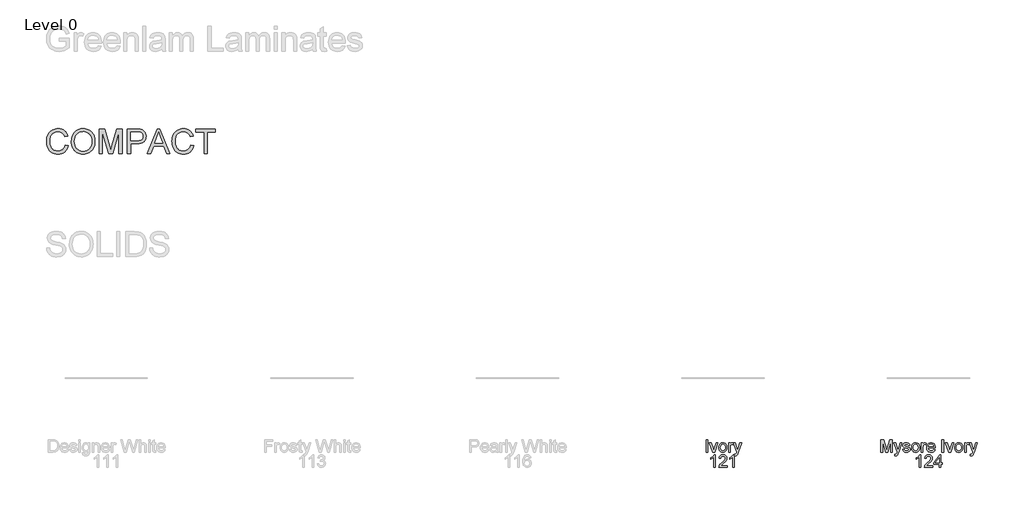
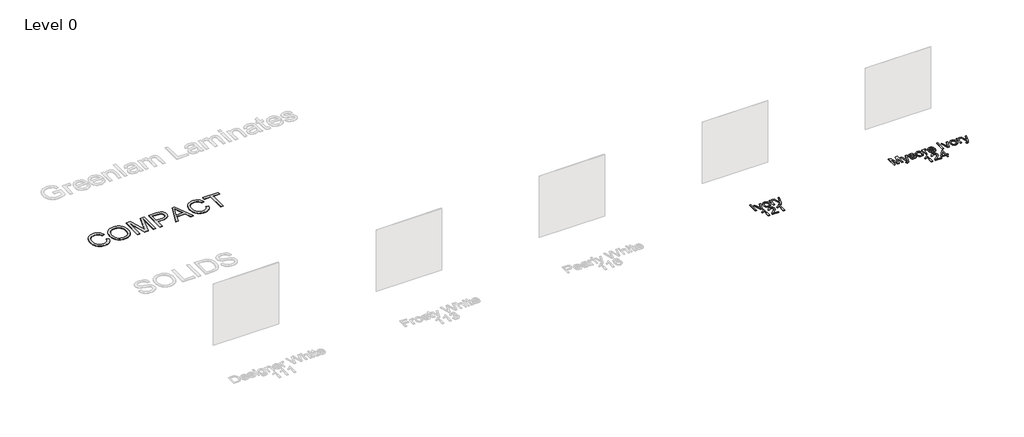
# One storey, part 14 of 15: 3 proxies.
"""IFC4 building model written with IfcOpenShell, lengths in millimetres."""

from ifc_helpers import new_model, si_unit, origin, origin_with_axes, place, context, project, spatial, polyline, outline, extrude, element, save

model = new_model("IFC4")

# Units and contexts
model_context = context("Model", 3, world=origin())
ifc_project = project(units=[si_unit("LENGTHUNIT", "METRE", prefix="MILLI")], contexts=[model_context])

# Site, building, storey
site = spatial("IfcSite", under=ifc_project)
building = spatial("IfcBuilding", under=site)
storey = spatial("IfcBuildingStorey", under=building, Name="Level 0", Elevation=0.0)

# Proxies
placement = place(None, origin())
element("IfcBuildingElementProxy", 1, Name="300mm Arial", ObjectType="300mm Arial", at=placement, inside=storey, context=model_context, shape_type="SweptSolid", body=[
    extrude(outline(polyline([(9390.9551173, -7002.860494), (9390.9551173, -6701.4915635), (9455.7759248, -6701.4915635), (9517.4329472, -6913.9066275), (9529.8673587, -6958.2731962), (9543.3318397, -6910.2278076), (9603.9587925, -6701.4915635), (9668.7796, -6701.4915635), (9668.7796, -7002.860494), (9631.1084837, -7002.860494), (9631.1084837, -6739.1626798), (9555.3983691, -7002.860494), (9504.3363482, -7002.860494), (9428.6262336, -6739.1626798), (9428.6262336, -7002.860494), (9390.9551173, -7002.860494)])), origin_with_axes(), (0.0, 0.0, 1.0), 10.0),
    extrude(outline(polyline([(9729.995164, -7087.6205057), (9725.2862745, -7051.3473409), (9744.4161382, -7054.6582789), (9762.2952032, -7050.5012124), (9773.2580867, -7038.9129295), (9783.5587825, -7011.1746271), (9786.5018385, -7002.0511536), (9706.4507163, -6781.5426857), (9746.1819718, -6781.5426857), (9788.6355541, -6904.4152721), (9803.4244103, -6953.5643066), (9818.2132665, -6910.1542312), (9861.8440711, -6781.5426857), (9901.281021, -6781.5426857), (9824.2465312, -7008.1579947), (9804.2337507, -7057.3070293), (9793.9882371, -7072.9971964), (9782.3815601, -7083.8681093), (9768.898685, -7090.2140737), (9753.0245769, -7092.3293952), (9729.995164, -7087.6205057)])), origin_with_axes(), (0.0, 0.0, 1.0), 10.0),
    extrude(outline(polyline([(9918.3507456, -6936.9360404), (9956.0218619, -6932.2271509), (9961.9631561, -6948.3403823), (9973.4594684, -6960.1861825), (9990.5843753, -6967.470246), (10013.4114531, -6969.8982672), (10035.9626194, -6967.6725811), (10051.8183334, -6960.9955229), (10061.1993243, -6951.3202265), (10064.3263213, -6940.0998256), (10061.1809302, -6930.4981055), (10051.744757, -6923.1772538), (10012.9699947, -6912.4350996), (9956.2425911, -6894.0042116), (9941.8859962, -6884.7427824), (9931.4841328, -6872.4831149), (9925.1657595, -6858.0069584), (9923.0596351, -6842.0960621), (9924.7518923, -6827.5003439), (9929.8286638, -6814.0266659), (9937.8300972, -6802.2084568), (9948.29634, -6792.5791455), (9972.2454579, -6781.4323211), (10004.6558616, -6776.8337961), (10029.1751966, -6778.6824032), (10050.4939582, -6784.2282242), (10067.6372592, -6792.9286334), (10079.6302123, -6804.2410048), (10087.5764633, -6819.0022698), (10092.5796585, -6838.0493601), (10054.9085422, -6842.7582497), (10050.1536674, -6830.9032524), (10040.7450854, -6821.972917), (10026.5908256, -6816.3719136), (10007.5989176, -6814.5049125), (9985.9674563, -6816.2891401), (9971.5464821, -6821.6418232), (9963.4346841, -6829.3673451), (9960.7307514, -6838.2700893), (9965.2189118, -6849.2329728), (9979.272004, -6857.5471059), (10011.7191959, -6865.5669334), (10067.0118598, -6883.2988455), (10081.616775, -6891.7785255), (10092.6900231, -6903.3852025), (10099.6705839, -6918.1556646), (10101.9974376, -6936.1267001), (10099.2659137, -6954.7047408), (10091.0713423, -6972.1791356), (10077.7264229, -6987.1795239), (10059.5438553, -6998.3355454), (10037.5813002, -7005.260924), (10012.8964183, -7007.5693835), (9974.9126023, -7003.1180114), (9947.192694, -6989.763895), (9928.6882296, -6967.654187), (9918.3507456, -6936.9360404)])), origin_with_axes(), (0.0, 0.0, 1.0), 10.0),
    extrude(outline(polyline([(10134.9596643, -6892.2015898), (10136.9968109, -6863.5389839), (10143.1082505, -6838.8403064), (10153.2939833, -6818.1055575), (10167.5540091, -6801.334737), (10181.910604, -6790.6155754), (10197.7571209, -6782.9590314), (10215.0935599, -6778.3651049), (10233.919921, -6776.8337961), (10254.7029545, -6778.698498), (10273.4948267, -6784.2926036), (10290.2955375, -6793.6161129), (10305.1050871, -6806.669026), (10317.1923099, -6823.0098843), (10325.8260405, -6842.1972296), (10331.0062788, -6864.2310619), (10332.7330249, -6889.1113811), (10329.6796044, -6927.1687735), (10320.5193427, -6956.1394806), (10305.5189543, -6977.8353213), (10284.9451538, -6994.0681143), (10260.5085922, -7004.1940662), (10233.919921, -7007.5693835), (10212.8333849, -7005.7115794), (10193.8667688, -7000.1381672), (10177.0200727, -6990.8491468), (10162.2932966, -6977.8445183), (10150.3348325, -6961.3450108), (10141.7930724, -6941.5713536), (10136.6680163, -6918.5235466), (10134.9596643, -6892.2015898)]), holes=[polyline([(10172.6307806, -6892.1280134), (10176.9901823, -6926.2214773), (10190.0683872, -6950.5108861), (10209.7500739, -6965.0514219), (10233.919921, -6969.8982672), (10257.9794035, -6965.0238308), (10277.6243021, -6950.4005215), (10290.702507, -6925.789216), (10295.0619086, -6890.950791), (10290.6749158, -6857.8506085), (10277.5139375, -6833.8922936), (10257.8414478, -6819.3517577), (10233.919921, -6814.5049125), (10209.7500739, -6819.3333636), (10190.0683872, -6833.8187172), (10176.9901823, -6858.0529436), (10172.6307806, -6892.1280134)])]), origin_with_axes(), (0.0, 0.0, 1.0), 10.0),
    extrude(outline(polyline([(10375.1130308, -7002.860494), (10375.1130308, -6781.5426857), (10408.0752575, -6781.5426857), (10408.0752575, -6814.2841833), (10420.2521516, -6795.3014723), (10431.4725524, -6784.1178596), (10442.7297415, -6778.654812), (10455.0170001, -6776.8337961), (10473.7789819, -6779.7400639), (10492.8352692, -6788.4588672), (10480.253705, -6822.2304343), (10467.0099532, -6816.4362929), (10453.7662013, -6814.5049125), (10442.5182093, -6816.3627165), (10432.4658338, -6821.9361288), (10424.3448388, -6830.8020848), (10418.8909882, -6842.5375205), (10414.3108574, -6863.5803706), (10412.7841471, -6886.5362071), (10412.7841471, -7002.860494), (10375.1130308, -7002.860494)])), origin_with_axes(), (0.0, 0.0, 1.0), 10.0),
    extrude(outline(polyline([(10671.3316133, -6936.9360404), (10708.2669656, -6941.64493), (10694.9588344, -6969.4752029), (10673.7228463, -6990.2789297), (10645.0372477, -7003.2467701), (10609.3802853, -7007.5693835), (10586.005983, -7005.7046817), (10565.1792636, -7000.1105761), (10546.9001269, -6990.7870668), (10531.1685731, -6977.7341537), (10518.518031, -6961.3151204), (10509.4819295, -6941.8932503), (10504.0602686, -6919.4685435), (10502.2530483, -6894.0409998), (10504.0786627, -6867.7512327), (10509.5555059, -6844.5792656), (10518.6835779, -6824.5250983), (10531.4628787, -6807.5887309), (10547.1530458, -6794.133447), (10565.0137167, -6784.5225298), (10585.0448913, -6778.7559796), (10607.2465697, -6776.8337961), (10628.7331775, -6778.751381), (10648.1642446, -6784.5041357), (10665.5397711, -6794.0920602), (10680.859757, -6807.5151545), (10693.3654455, -6824.4147337), (10702.2980802, -6844.4321128), (10707.6576611, -6867.5672917), (10709.444188, -6893.8202706), (10709.2234588, -6903.9738137), (10539.9241646, -6903.9738137), (10546.444873, -6932.1719686), (10561.5924141, -6952.902119), (10583.4538017, -6965.6492302), (10610.1160493, -6969.8982672), (10630.165618, -6967.9300985), (10647.0514016, -6962.0255925), (10660.7734, -6951.8168672), (10671.3316133, -6936.9360404)]), holes=[polyline([(10539.9241646, -6866.3026974), (10671.7730717, -6866.3026974), (10666.6779061, -6846.4002814), (10656.6899099, -6832.1632482), (10634.7273548, -6818.9194964), (10607.0994169, -6814.5049125), (10581.7063622, -6818.0273826), (10560.7094973, -6828.5947929), (10546.1137792, -6845.0667092), (10539.9241646, -6866.3026974)])]), origin_with_axes(), (0.0, 0.0, 1.0), 10.0),
    extrude(outline(polyline([(10874.2553218, -7002.860494), (10874.2553218, -6701.4915635), (10911.9264381, -6701.4915635), (10911.9264381, -7002.860494), (10874.2553218, -7002.860494)])), origin_with_axes(), (0.0, 0.0, 1.0), 10.0),
    extrude(outline(polyline([(11036.8591637, -7002.860494), (10959.0153335, -6781.5426857), (10998.8937418, -6781.5426857), (11046.0562136, -6914.1273567), (11060.2564586, -6958.7146546), (11074.162398, -6916.6289543), (11121.6191754, -6781.5426857), (11161.4975837, -6781.5426857), (11084.6102467, -7002.860494), (11036.8591637, -7002.860494)])), origin_with_axes(), (0.0, 0.0, 1.0), 10.0),
    extrude(outline(polyline([(11185.0420314, -6892.2015898), (11187.0791779, -6863.5389839), (11193.1906176, -6838.8403064), (11203.3763503, -6818.1055575), (11217.6363761, -6801.334737), (11231.992971, -6790.6155754), (11247.8394879, -6782.9590314), (11265.175927, -6778.3651049), (11284.0022881, -6776.8337961), (11304.7853215, -6778.698498), (11323.5771937, -6784.2926036), (11340.3779046, -6793.6161129), (11355.1874541, -6806.669026), (11367.2746769, -6823.0098843), (11375.9084075, -6842.1972296), (11381.0886459, -6864.2310619), (11382.815392, -6889.1113811), (11379.7619714, -6927.1687735), (11370.6017097, -6956.1394806), (11355.6013214, -6977.8353213), (11335.0275208, -6994.0681143), (11310.5909593, -7004.1940662), (11284.0022881, -7007.5693835), (11262.9157519, -7005.7115794), (11243.9491358, -7000.1381672), (11227.1024397, -6990.8491468), (11212.3756636, -6977.8445183), (11200.4171995, -6961.3450108), (11191.8754394, -6941.5713536), (11186.7503834, -6918.5235466), (11185.0420314, -6892.2015898)]), holes=[polyline([(11222.7131477, -6892.1280134), (11227.0725493, -6926.2214773), (11240.1507542, -6950.5108861), (11259.832441, -6965.0514219), (11284.0022881, -6969.8982672), (11308.0617705, -6965.0238308), (11327.7066691, -6950.4005215), (11340.784874, -6925.789216), (11345.1442757, -6890.950791), (11340.7572829, -6857.8506085), (11327.5963045, -6833.8922936), (11307.9238148, -6819.3517577), (11284.0022881, -6814.5049125), (11259.832441, -6819.3333636), (11240.1507542, -6833.8187172), (11227.0725493, -6858.0529436), (11222.7131477, -6892.1280134)])]), origin_with_axes(), (0.0, 0.0, 1.0), 10.0),
    extrude(outline(polyline([(11425.1953978, -7002.860494), (11425.1953978, -6781.5426857), (11458.1576246, -6781.5426857), (11458.1576246, -6814.2841833), (11470.3345186, -6795.3014723), (11481.5549195, -6784.1178596), (11492.8121085, -6778.654812), (11505.0993672, -6776.8337961), (11523.8613489, -6779.7400639), (11542.9176363, -6788.4588672), (11530.336072, -6822.2304343), (11517.0923202, -6816.4362929), (11503.8485684, -6814.5049125), (11492.6005764, -6816.3627165), (11482.5482009, -6821.9361288), (11474.4272058, -6830.8020848), (11468.9733552, -6842.5375205), (11464.3932244, -6863.5803706), (11462.8665141, -6886.5362071), (11462.8665141, -7002.860494), (11425.1953978, -7002.860494)])), origin_with_axes(), (0.0, 0.0, 1.0), 10.0),
    extrude(outline(polyline([(11566.462084, -7087.6205057), (11561.7531944, -7051.3473409), (11580.8830582, -7054.6582789), (11598.7621231, -7050.5012124), (11609.7250066, -7038.9129295), (11620.0257025, -7011.1746271), (11622.9687584, -7002.0511536), (11542.9176363, -6781.5426857), (11582.6488917, -6781.5426857), (11625.102474, -6904.4152721), (11639.8913302, -6953.5643066), (11654.6801864, -6910.1542312), (11698.310991, -6781.5426857), (11737.7479409, -6781.5426857), (11660.7134511, -7008.1579947), (11640.7006706, -7057.3070293), (11630.455157, -7072.9971964), (11618.8484801, -7083.8681093), (11605.3656049, -7090.2140737), (11589.4914969, -7092.3293952), (11566.462084, -7087.6205057)])), origin_with_axes(), (0.0, 0.0, 1.0), 10.0),
    extrude(outline(polyline([(10363.3408069, -7368.7849475), (10325.6696906, -7368.7849475), (10325.6696906, -7133.9290818), (10289.9851371, -7159.3497277), (10250.327458, -7178.3692268), (10250.327458, -7142.7582497), (10279.9143675, -7126.6634124), (10305.5465455, -7107.5151545), (10325.7524641, -7087.1528861), (10339.0605952, -7067.4160171), (10363.3408069, -7067.4160171), (10363.3408069, -7368.7849475)])), origin_with_axes(), (0.0, 0.0, 1.0), 10.0),
    extrude(outline(polyline([(10645.8741792, -7331.1138312), (10645.8741792, -7368.7849475), (10448.1008186, -7368.7849475), (10452.1475206, -7342.8124787), (10461.4365409, -7322.5145896), (10475.0297807, -7302.8237058), (10494.6930733, -7282.213117), (10522.1922524, -7259.156113), (10562.8432129, -7223.0484951), (10587.2337892, -7196.3954446), (10599.4290773, -7174.7639833), (10603.4941734, -7153.7211331), (10599.6590036, -7134.8579838), (10588.1534942, -7119.1770138), (10570.4675673, -7108.6096035), (10548.0911449, -7105.0871334), (10524.5926825, -7108.52683), (10506.3365385, -7118.84592), (10494.5551176, -7135.2350629), (10490.4808245, -7156.8849183), (10452.8097082, -7152.1760288), (10461.9423787, -7115.7373171), (10470.4887373, -7101.2013798), (10481.6884448, -7089.1210548), (10495.2839838, -7079.6251008), (10511.0178368, -7072.8422765), (10548.9004853, -7067.4160171), (10569.090309, -7068.9243332), (10587.0590452, -7073.4492818), (10602.8066939, -7080.9908627), (10616.333255, -7091.549076), (10627.1972702, -7104.3421723), (10634.957281, -7118.5884026), (10639.6132875, -7134.2877667), (10641.1652897, -7151.4402648), (10639.4914266, -7169.4572855), (10634.4698374, -7187.1616065), (10625.557896, -7205.1694302), (10612.2129767, -7224.0969588), (10590.9402003, -7246.6941104), (10558.244688, -7275.7108027), (10514.9081889, -7311.9471793), (10497.9120408, -7331.1138312), (10645.8741792, -7331.1138312)])), origin_with_axes(), (0.0, 0.0, 1.0), 10.0),
    extrude(outline(polyline([(10805.9764235, -7368.7849475), (10805.9764235, -7298.1516044), (10669.4186269, -7298.1516044), (10669.4186269, -7260.4804881), (10815.3942026, -7072.1249066), (10843.6475398, -7072.1249066), (10843.6475398, -7260.4804881), (10881.3186561, -7260.4804881), (10881.3186561, -7298.1516044), (10843.6475398, -7298.1516044), (10843.6475398, -7368.7849475), (10805.9764235, -7368.7849475)]), holes=[polyline([(10805.9764235, -7260.4804881), (10805.9764235, -7144.0826249), (10715.7717583, -7260.4804881), (10805.9764235, -7260.4804881)])]), origin_with_axes(), (0.0, 0.0, 1.0), 10.0),
])
element("IfcBuildingElementProxy", 2, Name="300mm Arial", ObjectType="300mm Arial", at=placement, inside=storey, context=model_context, shape_type="SweptSolid", body=[
    extrude(outline(polyline([(5134.9596643, -7002.860494), (5134.9596643, -6701.4915635), (5172.6307806, -6701.4915635), (5172.6307806, -7002.860494), (5134.9596643, -7002.860494)])), origin_with_axes(), (0.0, 0.0, 1.0), 10.0),
    extrude(outline(polyline([(5297.5635062, -7002.860494), (5219.719676, -6781.5426857), (5259.5980843, -6781.5426857), (5306.7605561, -6914.1273567), (5320.9608011, -6958.7146546), (5334.8667405, -6916.6289543), (5382.3235179, -6781.5426857), (5422.2019262, -6781.5426857), (5345.3145892, -7002.860494), (5297.5635062, -7002.860494)])), origin_with_axes(), (0.0, 0.0, 1.0), 10.0),
    extrude(outline(polyline([(5445.7463739, -6892.2015898), (5447.7835204, -6863.5389839), (5453.89496, -6838.8403064), (5464.0806928, -6818.1055575), (5478.3407186, -6801.334737), (5492.6973135, -6790.6155754), (5508.5438304, -6782.9590314), (5525.8802695, -6778.3651049), (5544.7066306, -6776.8337961), (5565.489664, -6778.698498), (5584.2815362, -6784.2926036), (5601.0822471, -6793.6161129), (5615.8917966, -6806.669026), (5627.9790194, -6823.0098843), (5636.61275, -6842.1972296), (5641.7929883, -6864.2310619), (5643.5197345, -6889.1113811), (5640.4663139, -6927.1687735), (5631.3060522, -6956.1394806), (5616.3056639, -6977.8353213), (5595.7318633, -6994.0681143), (5571.2953018, -7004.1940662), (5544.7066306, -7007.5693835), (5523.6200944, -7005.7115794), (5504.6534783, -7000.1381672), (5487.8067822, -6990.8491468), (5473.0800061, -6977.8445183), (5461.121542, -6961.3450108), (5452.5797819, -6941.5713536), (5447.4547259, -6918.5235466), (5445.7463739, -6892.2015898)]), holes=[polyline([(5483.4174902, -6892.1280134), (5487.7768918, -6926.2214773), (5500.8550967, -6950.5108861), (5520.5367835, -6965.0514219), (5544.7066306, -6969.8982672), (5568.766113, -6965.0238308), (5588.4110116, -6950.4005215), (5601.4892165, -6925.789216), (5605.8486182, -6890.950791), (5601.4616254, -6857.8506085), (5588.300647, -6833.8922936), (5568.6281573, -6819.3517577), (5544.7066306, -6814.5049125), (5520.5367835, -6819.3333636), (5500.8550967, -6833.8187172), (5487.7768918, -6858.0529436), (5483.4174902, -6892.1280134)])]), origin_with_axes(), (0.0, 0.0, 1.0), 10.0),
    extrude(outline(polyline([(5685.8997403, -7002.860494), (5685.8997403, -6781.5426857), (5718.8619671, -6781.5426857), (5718.8619671, -6814.2841833), (5731.0388611, -6795.3014723), (5742.259262, -6784.1178596), (5753.516451, -6778.654812), (5765.8037097, -6776.8337961), (5784.5656914, -6779.7400639), (5803.6219788, -6788.4588672), (5791.0404145, -6822.2304343), (5777.7966627, -6816.4362929), (5764.5529109, -6814.5049125), (5753.3049189, -6816.3627165), (5743.2525434, -6821.9361288), (5735.1315483, -6830.8020848), (5729.6776977, -6842.5375205), (5725.0975669, -6863.5803706), (5723.5708566, -6886.5362071), (5723.5708566, -7002.860494), (5685.8997403, -7002.860494)])), origin_with_axes(), (0.0, 0.0, 1.0), 10.0),
    extrude(outline(polyline([(5827.1664265, -7087.6205057), (5822.4575369, -7051.3473409), (5841.5874007, -7054.6582789), (5859.4664656, -7050.5012124), (5870.4293491, -7038.9129295), (5880.7300449, -7011.1746271), (5883.6731009, -7002.0511536), (5803.6219788, -6781.5426857), (5843.3532342, -6781.5426857), (5885.8068165, -6904.4152721), (5900.5956727, -6953.5643066), (5915.3845289, -6910.1542312), (5959.0153335, -6781.5426857), (5998.4522834, -6781.5426857), (5921.4177936, -7008.1579947), (5901.4050131, -7057.3070293), (5891.1594995, -7072.9971964), (5879.5528226, -7083.8681093), (5866.0699474, -7090.2140737), (5850.1958393, -7092.3293952), (5827.1664265, -7087.6205057)])), origin_with_axes(), (0.0, 0.0, 1.0), 10.0),
    extrude(outline(polyline([(5363.3408069, -7368.7849475), (5325.6696906, -7368.7849475), (5325.6696906, -7133.9290818), (5289.9851371, -7159.3497277), (5250.327458, -7178.3692268), (5250.327458, -7142.7582497), (5279.9143675, -7126.6634124), (5305.5465455, -7107.5151545), (5325.7524641, -7087.1528861), (5339.0605952, -7067.4160171), (5363.3408069, -7067.4160171), (5363.3408069, -7368.7849475)])), origin_with_axes(), (0.0, 0.0, 1.0), 10.0),
    extrude(outline(polyline([(5645.8741792, -7331.1138312), (5645.8741792, -7368.7849475), (5448.1008186, -7368.7849475), (5452.1475206, -7342.8124787), (5461.4365409, -7322.5145896), (5475.0297807, -7302.8237058), (5494.6930733, -7282.213117), (5522.1922524, -7259.156113), (5562.8432129, -7223.0484951), (5587.2337892, -7196.3954446), (5599.4290773, -7174.7639833), (5603.4941734, -7153.7211331), (5599.6590036, -7134.8579838), (5588.1534942, -7119.1770138), (5570.4675673, -7108.6096035), (5548.0911449, -7105.0871334), (5524.5926825, -7108.52683), (5506.3365385, -7118.84592), (5494.5551176, -7135.2350629), (5490.4808245, -7156.8849183), (5452.8097082, -7152.1760288), (5461.9423787, -7115.7373171), (5470.4887373, -7101.2013798), (5481.6884448, -7089.1210548), (5495.2839838, -7079.6251008), (5511.0178368, -7072.8422765), (5548.9004853, -7067.4160171), (5569.090309, -7068.9243332), (5587.0590452, -7073.4492818), (5602.8066939, -7080.9908627), (5616.333255, -7091.549076), (5627.1972702, -7104.3421723), (5634.957281, -7118.5884026), (5639.6132875, -7134.2877667), (5641.1652897, -7151.4402648), (5639.4914266, -7169.4572855), (5634.4698374, -7187.1616065), (5625.557896, -7205.1694302), (5612.2129767, -7224.0969588), (5590.9402003, -7246.6941104), (5558.244688, -7275.7108027), (5514.9081889, -7311.9471793), (5497.9120408, -7331.1138312), (5645.8741792, -7331.1138312)])), origin_with_axes(), (0.0, 0.0, 1.0), 10.0),
    extrude(outline(polyline([(5824.8119817, -7368.7849475), (5787.1408654, -7368.7849475), (5787.1408654, -7133.9290818), (5751.4563118, -7159.3497277), (5711.7986328, -7178.3692268), (5711.7986328, -7142.7582497), (5741.3855422, -7126.6634124), (5767.0177202, -7107.5151545), (5787.2236388, -7087.1528861), (5800.53177, -7067.4160171), (5824.8119817, -7067.4160171), (5824.8119817, -7368.7849475)])), origin_with_axes(), (0.0, 0.0, 1.0), 10.0),
])
element("IfcBuildingElementProxy", 3, Name="600mm Arial", ObjectType="600mm Arial", at=placement, inside=storey, context=model_context, shape_type="SweptSolid", body=[
    extrude(outline(polyline([(-10453.6631268, 474.3824267), (-10378.3208942, 454.9582573), (-10393.229312, 408.1038867), (-10413.0857427, 367.1632192), (-10437.8901863, 332.1362547), (-10467.6426426, 303.0229933), (-10501.6717272, 280.1361347), (-10539.3060553, 263.7883785), (-10580.5456269, 253.9797248), (-10625.3904421, 250.7101736), (-10671.3343048, 253.18418), (-10712.7808101, 260.6061993), (-10749.729958, 272.9762314), (-10782.1817485, 290.2942763), (-10810.5822385, 312.3028166), (-10835.377485, 338.744335), (-10856.5674879, 369.6188315), (-10874.1522473, 404.926306), (-10887.9616177, 443.1400482), (-10897.8254537, 482.733348), (-10903.7437553, 523.7062052), (-10905.7165225, 566.0586199), (-10903.4862379, 611.5012433), (-10896.7953841, 653.9456285), (-10885.6439611, 693.3917754), (-10870.0319689, 729.8396841), (-10850.3088955, 762.6869478), (-10826.8242286, 791.3311596), (-10799.5779683, 815.7723197), (-10768.5701147, 836.0104279), (-10734.8537298, 851.8799375), (-10699.481876, 863.2153015), (-10662.4545532, 870.0165199), (-10623.7717614, 872.2835926), (-10580.6789842, 869.3497337), (-10541.1638594, 860.548157), (-10505.2263869, 845.8788624), (-10472.8665669, 825.3418501), (-10444.6178282, 799.4797458), (-10421.0135997, 768.8351756), (-10402.0538814, 733.4081395), (-10387.7386733, 693.1986374), (-10463.0809059, 675.245996), (-10474.9451002, 704.8742922), (-10489.2005275, 730.189172), (-10505.8471878, 751.1906354), (-10524.8850811, 767.8786824), (-10546.4245719, 780.5936039), (-10570.5760249, 789.6756906), (-10597.33944, 795.1249427), (-10626.7148173, 796.94136), (-10660.5139756, 794.9272061), (-10691.4252603, 788.8847443), (-10719.4486713, 778.8139747), (-10744.5842086, 764.7148973), (-10766.514574, 747.2221084), (-10784.9224694, 726.9702046), (-10799.8078946, 703.9591858), (-10811.1708497, 678.189052), (-10825.5734298, 623.0435409), (-10830.3742899, 566.2057727), (-10824.690513, 496.6024992), (-10817.585792, 465.3325296), (-10807.6391826, 436.4170048), (-10794.6897363, 410.4307403), (-10778.5765049, 387.9485519), (-10759.2994884, 368.9704395), (-10736.8586867, 353.496403), (-10712.3439502, 341.4896544), (-10686.8451294, 332.9134054), (-10660.3622243, 327.767656), (-10632.8952348, 326.0524062), (-10600.1399417, 328.3884569), (-10570.0058078, 335.3966089), (-10542.4928331, 347.0768622), (-10517.6010176, 363.4292169), (-10495.9189725, 384.3800965), (-10478.035309, 409.8559247), (-10463.9500271, 439.8567014), (-10453.6631268, 474.3824267)])), origin_with_axes(), (0.0, 0.0, 1.0), 10.0),
    extrude(outline(polyline([(-10302.9786616, 553.550632), (-10297.9570723, 624.2483544), (-10282.8923046, 686.8342789), (-10257.7843585, 741.3084053), (-10241.4641935, 765.5035443), (-10222.6332338, 787.6707338), (-10179.5450551, 824.6888595), (-10130.6259468, 851.1303779), (-10075.8759089, 866.995289), (-10015.2949413, 872.2835926), (-9974.7451484, 869.8003892), (-9936.2371006, 862.3507788), (-9899.7707978, 849.9347614), (-9865.3462401, 832.5523372), (-9833.9291177, 810.7277378), (-9806.4851209, 784.9851952), (-9783.0142496, 755.3247093), (-9763.5165038, 721.7462802), (-9748.1942187, 685.013263), (-9737.2497294, 645.8890128), (-9730.6830358, 604.3735297), (-9728.4941379, 560.4668135), (-9730.7979989, 515.9806833), (-9737.7095819, 473.9041801), (-9749.2288869, 434.2373039), (-9765.3559138, 396.9800549), (-9785.7089852, 363.1165172), (-9809.9064234, 333.6307753), (-9837.9482285, 308.5228291), (-9869.8344005, 287.7926787), (-9904.3095419, 271.5690827), (-9940.1182556, 259.9807999), (-9977.2605416, 253.0278302), (-10015.7363997, 250.7101736), (-10056.9943655, 253.271552), (-10096.0082511, 260.9556872), (-10132.7780565, 273.7625791), (-10167.3037818, 291.6922279), (-10198.6841159, 314.0502561), (-10226.0177482, 340.1422866), (-10249.3046785, 369.9683194), (-10268.5449068, 403.5283544), (-10283.6096745, 439.4750238), (-10294.3702229, 476.4609599), (-10300.8265519, 514.4861627), (-10302.9786616, 553.550632)]), holes=[polyline([(-10227.636429, 552.814868), (-10223.870237, 502.8656901), (-10212.5716613, 458.5267127), (-10193.7407016, 419.7979356), (-10167.3773582, 386.679359), (-10135.3302378, 360.1550672), (-10099.4479477, 341.2091444), (-10059.7304878, 329.8415908), (-10016.1778581, 326.0524062), (-9971.8802674, 329.878379), (-9931.6937579, 341.3562972), (-9895.6183298, 360.486161), (-9863.6539829, 387.2679702), (-9837.4837775, 421.0855226), (-9818.7907736, 461.3226158), (-9807.5749713, 507.9792499), (-9803.8363705, 561.0554247), (-9805.4366572, 595.5351647), (-9810.2375172, 627.7524305), (-9818.2389506, 657.7072219), (-9829.4409574, 685.3995391), (-9843.7193773, 710.4660985), (-9860.9500503, 732.5436168), (-9881.1329762, 751.6320938), (-9904.2681552, 767.7315296), (-9929.6382173, 780.5108304), (-9956.5257926, 789.6389024), (-9984.9308812, 795.1157456), (-10014.853483, 796.94136), (-10056.8931979, 793.4234885), (-10095.8978865, 782.8698737), (-10131.8675486, 765.2805158), (-10164.8021842, 740.6554148), (-10192.2921663, 707.8081511), (-10211.9278678, 665.5523055), (-10223.7092887, 613.8878778), (-10227.636429, 552.814868)])]), origin_with_axes(), (0.0, 0.0, 1.0), 10.0),
    extrude(outline(polyline([(-9624.8985681, 260.1279527), (-9624.8985681, 862.8658136), (-9495.256953, 862.8658136), (-9371.9429082, 438.0356855), (-9347.0740853, 349.3025483), (-9320.1451233, 445.3933254), (-9198.8912176, 862.8658136), (-9069.2496025, 862.8658136), (-9069.2496025, 260.1279527), (-9144.5918352, 260.1279527), (-9144.5918352, 787.523581), (-9296.0120644, 260.1279527), (-9398.1361062, 260.1279527), (-9549.5563355, 787.523581), (-9549.5563355, 260.1279527), (-9624.8985681, 260.1279527)])), origin_with_axes(), (0.0, 0.0, 1.0), 10.0),
    extrude(outline(polyline([(-8937.4006955, 260.1279527), (-8937.4006955, 862.8658136), (-8714.022748, 862.8658136), (-8662.0042339, 861.4310738), (-8623.9652356, 857.1268544), (-8583.8109158, 846.4030943), (-8550.7567185, 828.9470936), (-8524.1404562, 803.9679061), (-8503.2999412, 770.6745856), (-8489.8354601, 731.4031826), (-8485.3472998, 688.4897479), (-8488.3777277, 651.4900162), (-8497.4690115, 617.4517346), (-8512.6211512, 586.374903), (-8533.8341468, 558.2595216), (-8562.9566052, 534.9541972), (-8601.8371336, 518.3075369), (-8650.4757319, 508.3195407), (-8708.8724001, 504.9902087), (-8862.0584629, 504.9902087), (-8862.0584629, 260.1279527), (-8937.4006955, 260.1279527)]), holes=[polyline([(-8862.0584629, 580.3324413), (-8704.4578161, 580.3324413), (-8668.2214396, 582.0614867), (-8637.6504458, 587.2486228), (-8612.7448347, 595.8938497), (-8593.5046064, 607.9971673), (-8579.1480115, 623.236679), (-8568.8933009, 641.2904879), (-8562.7404745, 662.1585941), (-8560.6895324, 685.8409975), (-8565.5271807, 719.686141), (-8580.0401254, 748.2337839), (-8602.4257448, 769.7180924), (-8630.8814171, 782.373233), (-8659.9440947, 786.235994), (-8706.2236497, 787.523581), (-8862.0584629, 787.523581), (-8862.0584629, 580.3324413)])]), origin_with_axes(), (0.0, 0.0, 1.0), 10.0),
    extrude(outline(polyline([(-8451.9436146, 260.1279527), (-8211.3487898, 862.8658136), (-8147.1901698, 862.8658136), (-7906.595345, 260.1279527), (-7986.2050087, 260.1279527), (-8055.219671, 448.4835342), (-8303.4664414, 448.4835342), (-8372.3339509, 260.1279527), (-8451.9436146, 260.1279527)]), holes=[polyline([(-8275.8017154, 523.8257668), (-8082.7372443, 523.8257668), (-8137.0366268, 672.0086345), (-8179.2694798, 787.523581), (-8216.7934433, 684.9580807), (-8275.8017154, 523.8257668)])]), origin_with_axes(), (0.0, 0.0, 1.0), 10.0),
    extrude(outline(polyline([(-7402.302706, 474.3824267), (-7326.9604734, 454.9582573), (-7341.8688912, 408.1038867), (-7361.7253219, 367.1632192), (-7386.5297655, 332.1362547), (-7416.2822218, 303.0229933), (-7450.3113064, 280.1361347), (-7487.9456345, 263.7883785), (-7529.1852061, 253.9797248), (-7574.0300214, 250.7101736), (-7619.973884, 253.18418), (-7661.4203893, 260.6061993), (-7698.3695372, 272.9762314), (-7730.8213277, 290.2942763), (-7759.2218177, 312.3028166), (-7784.0170642, 338.744335), (-7805.2070671, 369.6188315), (-7822.7918265, 404.926306), (-7836.6011969, 443.1400482), (-7846.4650329, 482.733348), (-7852.3833345, 523.7062052), (-7854.3561017, 566.0586199), (-7852.1258171, 611.5012433), (-7845.4349633, 653.9456285), (-7834.2835403, 693.3917754), (-7818.6715481, 729.8396841), (-7798.9484747, 762.6869478), (-7775.4638078, 791.3311596), (-7748.2175475, 815.7723197), (-7717.2096939, 836.0104279), (-7683.493309, 851.8799375), (-7648.1214552, 863.2153015), (-7611.0941324, 870.0165199), (-7572.4113406, 872.2835926), (-7529.3185634, 869.3497337), (-7489.8034386, 860.548157), (-7453.8659662, 845.8788624), (-7421.5061462, 825.3418501), (-7393.2574074, 799.4797458), (-7369.6531789, 768.8351756), (-7350.6934606, 733.4081395), (-7336.3782525, 693.1986374), (-7411.7204851, 675.245996), (-7423.5846794, 704.8742922), (-7437.8401067, 730.189172), (-7454.486767, 751.1906354), (-7473.5246603, 767.8786824), (-7495.0641511, 780.5936039), (-7519.2156041, 789.6756906), (-7545.9790192, 795.1249427), (-7575.3543965, 796.94136), (-7609.1535548, 794.9272061), (-7640.0648395, 788.8847443), (-7668.0882505, 778.8139747), (-7693.2237878, 764.7148973), (-7715.1541532, 747.2221084), (-7733.5620486, 726.9702046), (-7748.4474738, 703.9591858), (-7759.8104289, 678.189052), (-7774.213009, 623.0435409), (-7779.0138691, 566.2057727), (-7773.3300922, 496.6024992), (-7766.2253712, 465.3325296), (-7756.2787618, 436.4170048), (-7743.3293155, 410.4307403), (-7727.2160841, 387.9485519), (-7707.9390676, 368.9704395), (-7685.4982659, 353.496403), (-7660.9835294, 341.4896544), (-7635.4847086, 332.9134054), (-7609.0018035, 327.767656), (-7581.5348141, 326.0524062), (-7548.7795209, 328.3884569), (-7518.645387, 335.3966089), (-7491.1324123, 347.0768622), (-7466.2405968, 363.4292169), (-7444.5585517, 384.3800965), (-7426.6748882, 409.8559247), (-7412.5896063, 439.8567014), (-7402.302706, 474.3824267)])), origin_with_axes(), (0.0, 0.0, 1.0), 10.0),
    extrude(outline(polyline([(-7072.6804383, 260.1279527), (-7072.6804383, 787.523581), (-7270.4537989, 787.523581), (-7270.4537989, 862.8658136), (-6799.5648451, 862.8658136), (-6799.5648451, 787.523581), (-6997.3382057, 787.523581), (-6997.3382057, 260.1279527), (-7072.6804383, 260.1279527)])), origin_with_axes(), (0.0, 0.0, 1.0), 10.0),
])

save(model, "model.ifc")
